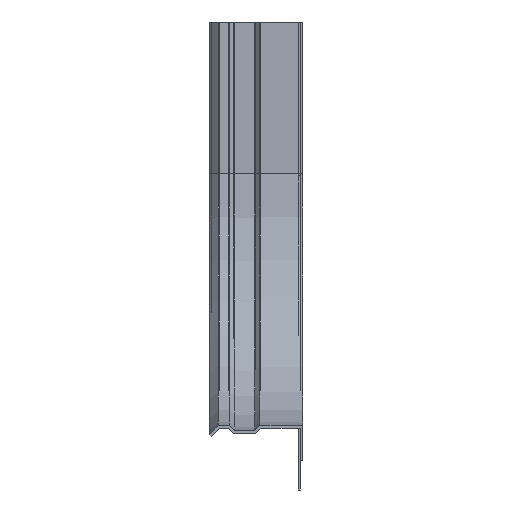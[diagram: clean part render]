
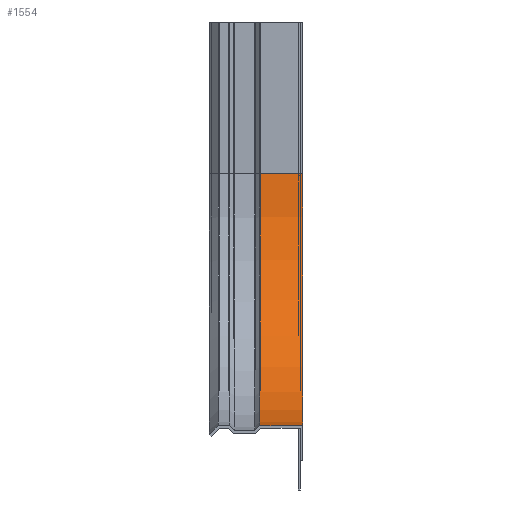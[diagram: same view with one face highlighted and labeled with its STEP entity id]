
A CAD part, left-side view. The second image highlights one B-rep face of the part: STEP entity #1554.
In plain terms, the highlighted cylindrical face has radius 100 mm (diameter 200 mm), a partial arc.
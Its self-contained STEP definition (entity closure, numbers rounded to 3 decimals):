
#215 = CARTESIAN_POINT ( 'NONE',  ( -60., 17., 60. ) ) ;
#233 = DIRECTION ( 'NONE',  ( 0., -1., 0. ) ) ;
#271 = CARTESIAN_POINT ( 'NONE',  ( -160., 17., 60. ) ) ;
#288 = EDGE_CURVE ( 'NONE', #2781, #3361, #3427, .T. ) ;
#343 = CARTESIAN_POINT ( 'NONE',  ( -160., 0., 60. ) ) ;
#474 = EDGE_CURVE ( 'NONE', #3306, #1449, #2287, .T. ) ;
#704 = ORIENTED_EDGE ( 'NONE', *, *, #1159, .F. ) ;
#708 = AXIS2_PLACEMENT_3D ( 'NONE', #1469, #1831, #3489 ) ;
#716 = AXIS2_PLACEMENT_3D ( 'NONE', #2232, #3383, #1121 ) ;
#762 = DIRECTION ( 'NONE',  ( 0., 1., 0. ) ) ;
#783 = CARTESIAN_POINT ( 'NONE',  ( -60., 0., 160. ) ) ;
#812 = ORIENTED_EDGE ( 'NONE', *, *, #474, .F. ) ;
#874 = ORIENTED_EDGE ( 'NONE', *, *, #288, .T. ) ;
#947 = CYLINDRICAL_SURFACE ( 'NONE', #716, 100. ) ;
#1121 = DIRECTION ( 'NONE',  ( 0., 0., -1. ) ) ;
#1159 = EDGE_CURVE ( 'NONE', #2781, #3306, #3010, .T. ) ;
#1241 = VECTOR ( 'NONE', #762, 1000. ) ;
#1305 = ORIENTED_EDGE ( 'NONE', *, *, #3531, .T. ) ;
#1344 = DIRECTION ( 'NONE',  ( 0., 0., -1. ) ) ;
#1449 = VERTEX_POINT ( 'NONE', #271 ) ;
#1450 = DIRECTION ( 'NONE',  ( 0., 1., 0. ) ) ;
#1466 = EDGE_LOOP ( 'NONE', ( #704, #874, #1305, #812 ) ) ;
#1469 = CARTESIAN_POINT ( 'NONE',  ( -60., 0., 60. ) ) ;
#1554 = ADVANCED_FACE ( 'NONE', ( #2501 ), #947, .F. ) ;
#1831 = DIRECTION ( 'NONE',  ( 0., -1., 0. ) ) ;
#1884 = CARTESIAN_POINT ( 'NONE',  ( -160., 0., 60. ) ) ;
#2228 = LINE ( 'NONE', #343, #3566 ) ;
#2232 = CARTESIAN_POINT ( 'NONE',  ( -60., 0., 60. ) ) ;
#2287 = CIRCLE ( 'NONE', #3429, 100. ) ;
#2501 = FACE_OUTER_BOUND ( 'NONE', #1466, .T. ) ;
#2781 = VERTEX_POINT ( 'NONE', #3005 ) ;
#3005 = CARTESIAN_POINT ( 'NONE',  ( -60., 0., 160. ) ) ;
#3010 = LINE ( 'NONE', #783, #1241 ) ;
#3017 = CARTESIAN_POINT ( 'NONE',  ( -60., 17., 160. ) ) ;
#3306 = VERTEX_POINT ( 'NONE', #3017 ) ;
#3361 = VERTEX_POINT ( 'NONE', #1884 ) ;
#3383 = DIRECTION ( 'NONE',  ( 0., -1., 0. ) ) ;
#3427 = CIRCLE ( 'NONE', #708, 100. ) ;
#3429 = AXIS2_PLACEMENT_3D ( 'NONE', #215, #233, #1344 ) ;
#3489 = DIRECTION ( 'NONE',  ( 0., 0., -1. ) ) ;
#3531 = EDGE_CURVE ( 'NONE', #3361, #1449, #2228, .T. ) ;
#3566 = VECTOR ( 'NONE', #1450, 1000. ) ;
